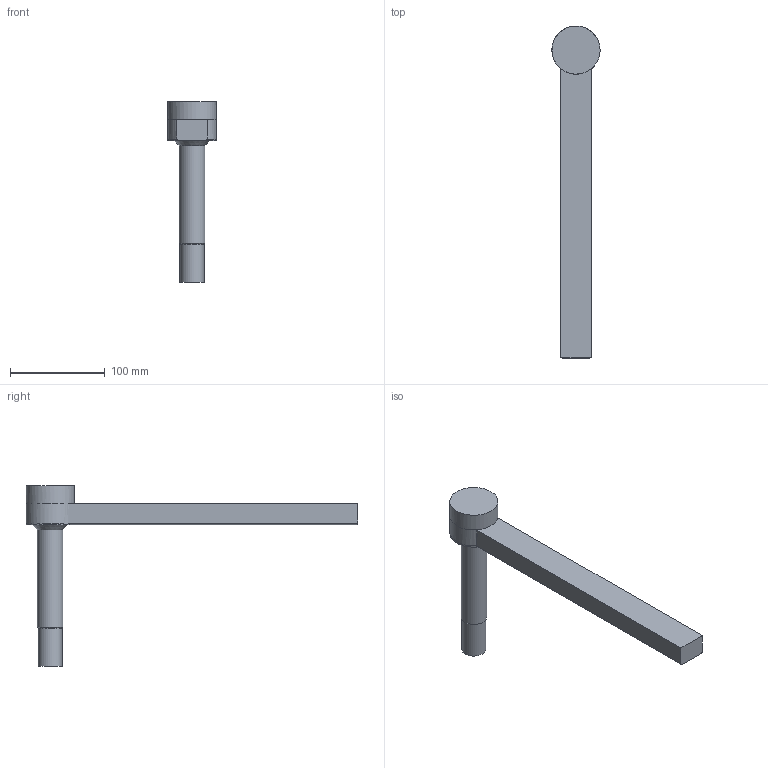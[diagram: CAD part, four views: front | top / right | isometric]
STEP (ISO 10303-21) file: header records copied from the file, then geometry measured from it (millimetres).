
FILE_DESCRIPTION(/* description */ (''),/* implementation_level */ '2;1');
FILE_NAME(/* name */ 'B1051TRUPas.stp',/* time_stamp */ '2019-10-03T15:28:53-04:00',/* author */ (''),/* organization */ (''),/* preprocessor_version */ 'ST-DEVELOPER v16',/* originating_system */ 'SIEMENS PLM Software NX 11.0',/* authorisation */ '');
FILE_SCHEMA (('AUTOMOTIVE_DESIGN { 1 0 10303 214 3 1 1 1 }'));
Length unit declared in the file: inch
Products named in the file (3): B10XX_SubSolid; B1051TRUPd; B1051TRUPas
Assembly tree (2 placements, depth 2):
  B1051TRUPas
    B1051TRUPd
    B10XX_SubSolid
Bounding box: 50.91 x 350.87 x 191.29 mm (x, y, z)
Volume: 490262 mm3; surface area: 79004.4 mm2
Topology: 2 solids, 3 shells, 34 faces, 72 edges, 45 vertices
Faces by surface type: plane 13, cylinder 10, cone 6, torus 3, sphere 1, revolution 1
Full cylindrical faces by diameter (mm): 8.731 x2, 25.4 x2, 26.987 x1, 50.927 x1
Entity records: 874 total; most frequent: CARTESIAN_POINT 167, DIRECTION 142, ORIENTED_EDGE 96, AXIS2_PLACEMENT_3D 62, EDGE_LOOP 54, EDGE_CURVE 48, FACE_BOUND 45, VERTEX_POINT 40
